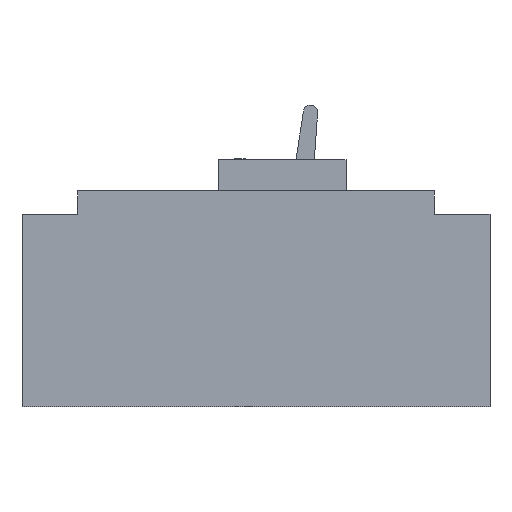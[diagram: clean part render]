
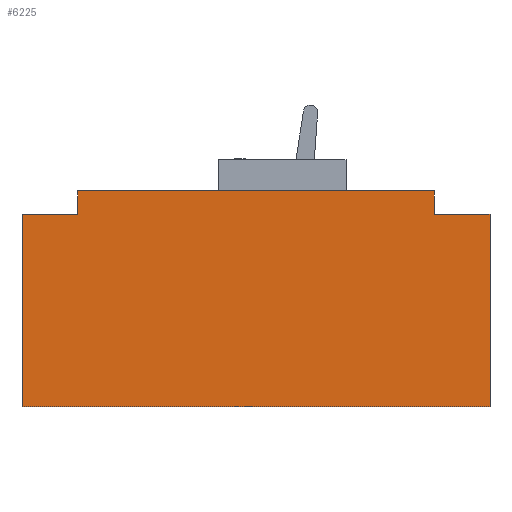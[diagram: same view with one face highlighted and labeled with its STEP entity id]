
A CAD part, left-side view. The second image highlights one B-rep face of the part: STEP entity #6225.
In plain terms, the highlighted planar face has unit normal (-1, 0, 0).
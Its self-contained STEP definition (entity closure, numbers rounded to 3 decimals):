
#20 = LINE ( 'NONE', #5879, #1955 ) ;
#87 = DIRECTION ( 'NONE',  ( 0., 0., -1. ) ) ;
#397 = DIRECTION ( 'NONE',  ( 0., -1., 0. ) ) ;
#400 = DIRECTION ( 'NONE',  ( 0., 0., -1. ) ) ;
#446 = VECTOR ( 'NONE', #400, 1000. ) ;
#493 = VERTEX_POINT ( 'NONE', #2515 ) ;
#521 = EDGE_CURVE ( 'NONE', #4120, #7329, #888, .T. ) ;
#538 = LINE ( 'NONE', #4997, #4664 ) ;
#601 = ORIENTED_EDGE ( 'NONE', *, *, #521, .F. ) ;
#888 = LINE ( 'NONE', #3099, #4366 ) ;
#1133 = DIRECTION ( 'NONE',  ( 0., -1., 0. ) ) ;
#1138 = VERTEX_POINT ( 'NONE', #2918 ) ;
#1206 = CARTESIAN_POINT ( 'NONE',  ( -37.5, 49.5, 60. ) ) ;
#1232 = VERTEX_POINT ( 'NONE', #7351 ) ;
#1313 = ORIENTED_EDGE ( 'NONE', *, *, #5125, .F. ) ;
#1378 = VECTOR ( 'NONE', #3685, 1000. ) ;
#1470 = PLANE ( 'NONE',  #5667 ) ;
#1955 = VECTOR ( 'NONE', #1133, 1000. ) ;
#2381 = ORIENTED_EDGE ( 'NONE', *, *, #3899, .T. ) ;
#2515 = CARTESIAN_POINT ( 'NONE',  ( -37.5, 65., 53.5 ) ) ;
#2666 = DIRECTION ( 'NONE',  ( 1., 0., 0. ) ) ;
#2733 = VECTOR ( 'NONE', #4882, 1000. ) ;
#2773 = LINE ( 'NONE', #4179, #6633 ) ;
#2918 = CARTESIAN_POINT ( 'NONE',  ( -37.5, 49.5, 53.5 ) ) ;
#3099 = CARTESIAN_POINT ( 'NONE',  ( -37.5, 49.5, 60. ) ) ;
#3206 = LINE ( 'NONE', #4349, #1378 ) ;
#3243 = DIRECTION ( 'NONE',  ( 0., 1., 0. ) ) ;
#3684 = VERTEX_POINT ( 'NONE', #7208 ) ;
#3685 = DIRECTION ( 'NONE',  ( 0., 0., -1. ) ) ;
#3698 = DIRECTION ( 'NONE',  ( 0., -1., 0. ) ) ;
#3816 = EDGE_CURVE ( 'NONE', #3980, #6743, #5578, .T. ) ;
#3899 = EDGE_CURVE ( 'NONE', #1232, #6743, #7603, .T. ) ;
#3980 = VERTEX_POINT ( 'NONE', #6981 ) ;
#4120 = VERTEX_POINT ( 'NONE', #1206 ) ;
#4163 = ORIENTED_EDGE ( 'NONE', *, *, #5589, .F. ) ;
#4179 = CARTESIAN_POINT ( 'NONE',  ( -37.5, 49.5, 60. ) ) ;
#4194 = EDGE_CURVE ( 'NONE', #4120, #1138, #2773, .T. ) ;
#4258 = CARTESIAN_POINT ( 'NONE',  ( -37.5, -49.5, 60. ) ) ;
#4291 = EDGE_CURVE ( 'NONE', #3684, #3980, #20, .T. ) ;
#4349 = CARTESIAN_POINT ( 'NONE',  ( -37.5, -49.5, 60. ) ) ;
#4366 = VECTOR ( 'NONE', #3698, 1000. ) ;
#4528 = CARTESIAN_POINT ( 'NONE',  ( -37.5, 65., 53.5 ) ) ;
#4664 = VECTOR ( 'NONE', #6818, 1000. ) ;
#4665 = LINE ( 'NONE', #4528, #446 ) ;
#4882 = DIRECTION ( 'NONE',  ( 0., 0., -1. ) ) ;
#4997 = CARTESIAN_POINT ( 'NONE',  ( -37.5, 65., 53.5 ) ) ;
#5025 = EDGE_LOOP ( 'NONE', ( #2381, #6545, #5108, #4163, #601, #7319, #1313, #7152 ) ) ;
#5108 = ORIENTED_EDGE ( 'NONE', *, *, #4291, .F. ) ;
#5125 = EDGE_CURVE ( 'NONE', #493, #1138, #538, .T. ) ;
#5531 = CARTESIAN_POINT ( 'NONE',  ( -37.5, -65., 0. ) ) ;
#5578 = LINE ( 'NONE', #6039, #2733 ) ;
#5589 = EDGE_CURVE ( 'NONE', #7329, #3684, #3206, .T. ) ;
#5667 = AXIS2_PLACEMENT_3D ( 'NONE', #6176, #2666, #3243 ) ;
#5810 = EDGE_CURVE ( 'NONE', #493, #1232, #4665, .T. ) ;
#5879 = CARTESIAN_POINT ( 'NONE',  ( -37.5, 65., 53.5 ) ) ;
#6031 = VECTOR ( 'NONE', #397, 1000. ) ;
#6039 = CARTESIAN_POINT ( 'NONE',  ( -37.5, -65., 53.5 ) ) ;
#6176 = CARTESIAN_POINT ( 'NONE',  ( -37.5, 65., 53.5 ) ) ;
#6225 = ADVANCED_FACE ( 'NONE', ( #6968 ), #1470, .F. ) ;
#6545 = ORIENTED_EDGE ( 'NONE', *, *, #3816, .F. ) ;
#6633 = VECTOR ( 'NONE', #87, 1000. ) ;
#6743 = VERTEX_POINT ( 'NONE', #5531 ) ;
#6818 = DIRECTION ( 'NONE',  ( 0., -1., 0. ) ) ;
#6847 = CARTESIAN_POINT ( 'NONE',  ( -37.5, 65., 0. ) ) ;
#6968 = FACE_OUTER_BOUND ( 'NONE', #5025, .T. ) ;
#6981 = CARTESIAN_POINT ( 'NONE',  ( -37.5, -65., 53.5 ) ) ;
#7152 = ORIENTED_EDGE ( 'NONE', *, *, #5810, .T. ) ;
#7208 = CARTESIAN_POINT ( 'NONE',  ( -37.5, -49.5, 53.5 ) ) ;
#7319 = ORIENTED_EDGE ( 'NONE', *, *, #4194, .T. ) ;
#7329 = VERTEX_POINT ( 'NONE', #4258 ) ;
#7351 = CARTESIAN_POINT ( 'NONE',  ( -37.5, 65., 0. ) ) ;
#7603 = LINE ( 'NONE', #6847, #6031 ) ;
